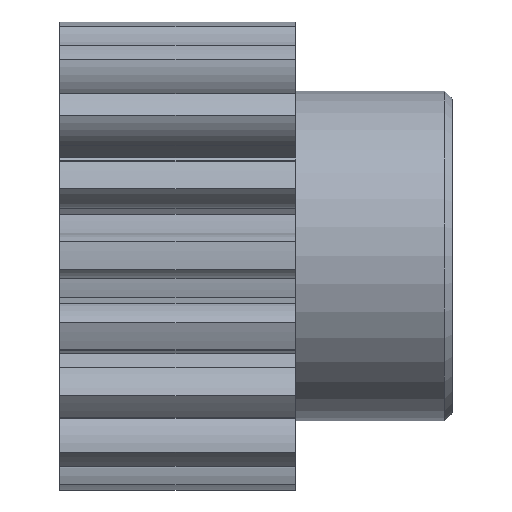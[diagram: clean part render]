
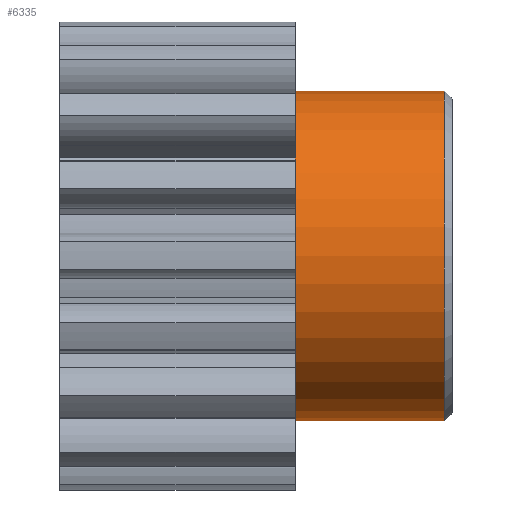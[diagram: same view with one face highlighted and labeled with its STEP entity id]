
A CAD part, top view. The second image highlights one B-rep face of the part: STEP entity #6335.
In plain terms, the highlighted cylindrical face has radius 21 mm (diameter 42 mm), a full revolution.
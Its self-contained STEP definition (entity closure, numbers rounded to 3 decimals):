
#1787=CYLINDRICAL_SURFACE('',#6688,21.);
#1862=FACE_BOUND('',#2239,.T.);
#1888=FACE_OUTER_BOUND('',#2238,.T.);
#2238=EDGE_LOOP('',(#4387));
#2239=EDGE_LOOP('',(#4388));
#2611=CIRCLE('',#6686,21.);
#2613=CIRCLE('',#6689,21.);
#2760=VERTEX_POINT('',#8628);
#2762=VERTEX_POINT('',#8633);
#3411=EDGE_CURVE('',#2760,#2760,#2611,.T.);
#3413=EDGE_CURVE('',#2762,#2762,#2613,.T.);
#4387=ORIENTED_EDGE('',*,*,#3413,.F.);
#4388=ORIENTED_EDGE('',*,*,#3411,.F.);
#6335=ADVANCED_FACE('',(#1888,#1862),#1787,.T.);
#6686=AXIS2_PLACEMENT_3D('',#8629,#7111,#7112);
#6688=AXIS2_PLACEMENT_3D('',#8632,#7115,#7116);
#6689=AXIS2_PLACEMENT_3D('',#8634,#7117,#7118);
#7111=DIRECTION('center_axis',(1.,0.,0.));
#7112=DIRECTION('ref_axis',(0.,0.,1.));
#7115=DIRECTION('center_axis',(1.,0.,0.));
#7116=DIRECTION('ref_axis',(0.,0.,1.));
#7117=DIRECTION('center_axis',(-1.,0.,0.));
#7118=DIRECTION('ref_axis',(0.,0.,1.));
#8628=CARTESIAN_POINT('',(49.,0.,-21.));
#8629=CARTESIAN_POINT('Origin',(49.,0.,0.));
#8632=CARTESIAN_POINT('Origin',(30.,0.,0.));
#8633=CARTESIAN_POINT('',(30.,0.,-21.));
#8634=CARTESIAN_POINT('Origin',(30.,0.,0.));
